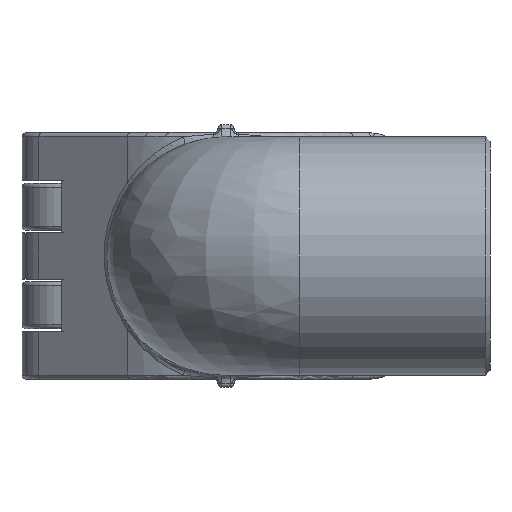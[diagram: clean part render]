
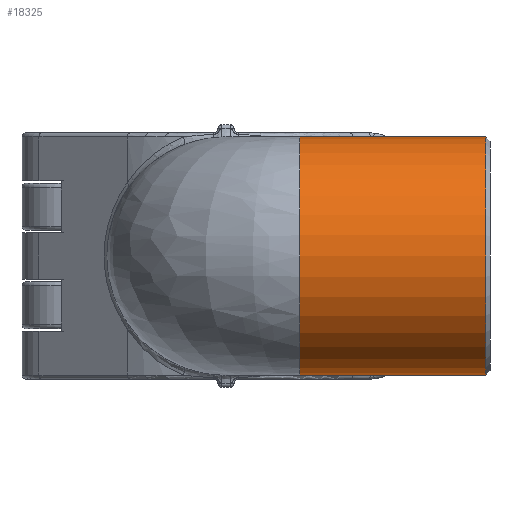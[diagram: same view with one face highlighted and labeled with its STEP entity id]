
A CAD part, front view. The second image highlights one B-rep face of the part: STEP entity #18325.
In plain terms, the highlighted cylindrical face has radius 14.715 mm (diameter 29.431 mm), a partial arc.
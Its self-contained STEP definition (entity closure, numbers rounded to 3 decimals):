
#12028=CARTESIAN_POINT('',(9.134,-40.594,
0.));
#12029=DIRECTION('',(1.,0.,0.));
#12030=DIRECTION('',(0.,0.,1.));
#12031=AXIS2_PLACEMENT_3D('',#12028,#12029,#12030);
#12068=DIRECTION('',(-1.,0.,
0.));
#12069=VECTOR('',#12068,22.986);
#12070=CARTESIAN_POINT('',(32.12,-40.594,14.715));
#12071=LINE('',#12070,#12069);
#12112=CARTESIAN_POINT('',(32.12,-40.594,0.));
#12113=DIRECTION('',(-1.,0.,0.));
#12114=DIRECTION('',(0.,0.,-1.));
#12115=AXIS2_PLACEMENT_3D('',#12112,#12113,#12114);
#12127=DIRECTION('',(-1.,0.,0.));
#12128=VECTOR('',#12127,22.986);
#12129=CARTESIAN_POINT('',(32.12,-40.594,-14.715));
#12130=LINE('',#12129,#12128);
#13846=CARTESIAN_POINT('',(9.134,-40.594,
14.715));
#13847=VERTEX_POINT('',#13846);
#13848=CARTESIAN_POINT('',(9.134,-40.594,-14.715));
#13849=VERTEX_POINT('',#13848);
#13853=CARTESIAN_POINT('',(32.12,-40.594,14.715));
#13854=CARTESIAN_POINT('',(32.12,-40.594,-14.715));
#13855=VERTEX_POINT('',#13853);
#13856=VERTEX_POINT('',#13854);
#18314=CARTESIAN_POINT('',(1.167,-40.594,0.));
#18315=DIRECTION('',(1.,0.,0.));
#18316=DIRECTION('',(0.,0.,-1.));
#18317=AXIS2_PLACEMENT_3D('',#18314,#18315,#18316);
#18318=CYLINDRICAL_SURFACE('',#18317,14.715);
#18319=ORIENTED_EDGE('',*,*,#18305,.F.);
#18320=ORIENTED_EDGE('',*,*,#18280,.T.);
#18321=ORIENTED_EDGE('',*,*,#18169,.F.);
#18322=ORIENTED_EDGE('',*,*,#18274,.F.);
#18323=EDGE_LOOP('',(#18319,#18320,#18321,#18322));
#18324=FACE_OUTER_BOUND('',#18323,.F.);
#12032=CIRCLE('',#12031,14.715);
#12116=CIRCLE('',#12115,14.715);
#18169=EDGE_CURVE('',#13847,#13849,#12032,.T.);
#18274=EDGE_CURVE('',#13855,#13847,#12071,.T.);
#18280=EDGE_CURVE('',#13856,#13849,#12130,.T.);
#18305=EDGE_CURVE('',#13856,#13855,#12116,.T.);
#18325=ADVANCED_FACE('',(#18324),#18318,.T.);
